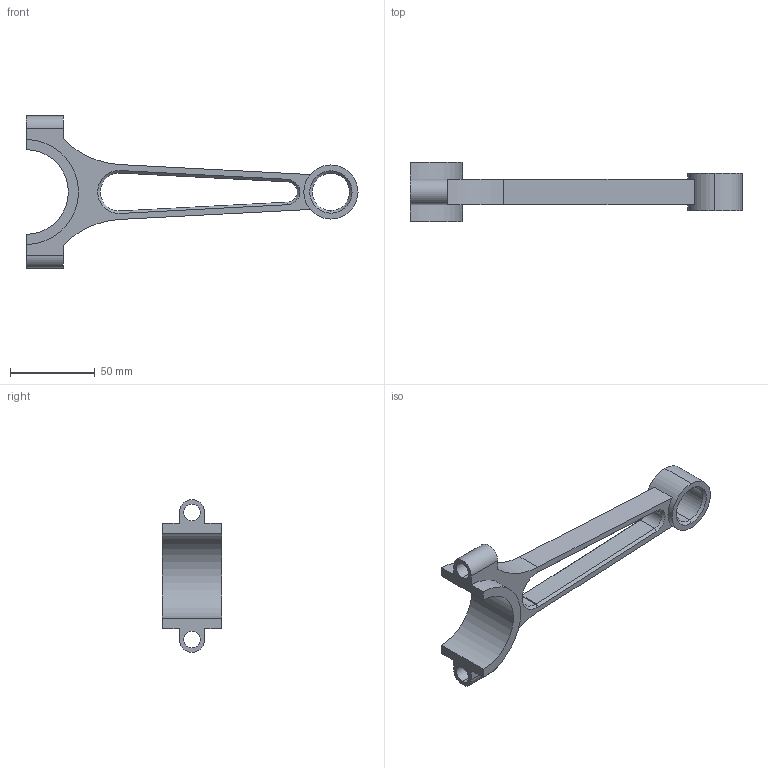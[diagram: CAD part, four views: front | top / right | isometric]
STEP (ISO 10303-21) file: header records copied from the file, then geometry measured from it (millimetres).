
FILE_DESCRIPTION (( 'STEP AP203' ), '1' );
FILE_NAME ('C03_Tut03.STEP', '2014-06-23T09:02:40', ( '' ), ( '' ), 'SwSTEP 2.0', 'SolidWorks 2014', '' );
FILE_SCHEMA (( 'CONFIG_CONTROL_DESIGN' ));
Length unit declared in the file: millimetre
Products named in the file (1): C03_Tut03
Bounding box: 196 x 35 x 90 mm (x, y, z)
Volume: 65341.8 mm3; surface area: 26035.1 mm2
Topology: 1 solids, 1 shells, 50 faces, 125 edges, 78 vertices
Faces by surface type: cylinder 20, plane 18, cone 12
Entity records: 1588 total; most frequent: DIRECTION 281, CARTESIAN_POINT 254, ORIENTED_EDGE 250, EDGE_CURVE 125, AXIS2_PLACEMENT_3D 105, VERTEX_POINT 78, LINE 71, VECTOR 71
